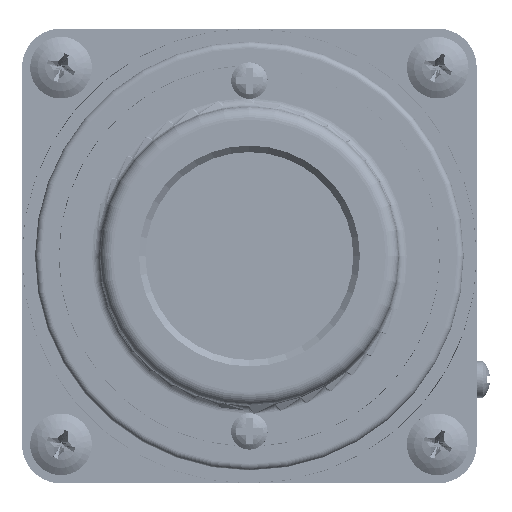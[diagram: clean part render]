
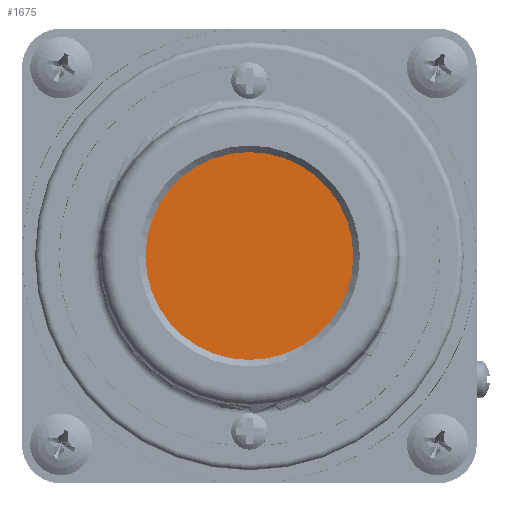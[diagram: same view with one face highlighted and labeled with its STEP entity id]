
A CAD part, left-side view. The second image highlights one B-rep face of the part: STEP entity #1675.
In plain terms, the highlighted planar face has unit normal (-1, 0, 0).
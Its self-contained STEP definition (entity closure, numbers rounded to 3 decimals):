
#966=PLANE('',#6056);
#1675=ADVANCED_FACE('',(#2035),#966,.T.);
#2035=FACE_OUTER_BOUND('',#2394,.T.);
#2394=EDGE_LOOP('',(#3397));
#3397=ORIENTED_EDGE('',*,*,#5051,.F.);
#4410=VERTEX_POINT('',#9378);
#5051=EDGE_CURVE('',#4410,#4410,#5584,.T.);
#5584=CIRCLE('',#6055,16.);
#6055=AXIS2_PLACEMENT_3D('',#9377,#6925,#6926);
#6056=AXIS2_PLACEMENT_3D('',#9379,#6927,#6928);
#6925=DIRECTION('',(1.,0.,0.));
#6926=DIRECTION('',(0.,0.,-1.));
#6927=DIRECTION('',(-1.,0.,0.));
#6928=DIRECTION('',(0.,0.,-1.));
#9377=CARTESIAN_POINT('',(-90.,0.,0.));
#9378=CARTESIAN_POINT('',(-90.,0.,-16.));
#9379=CARTESIAN_POINT('',(-90.,0.,0.));
